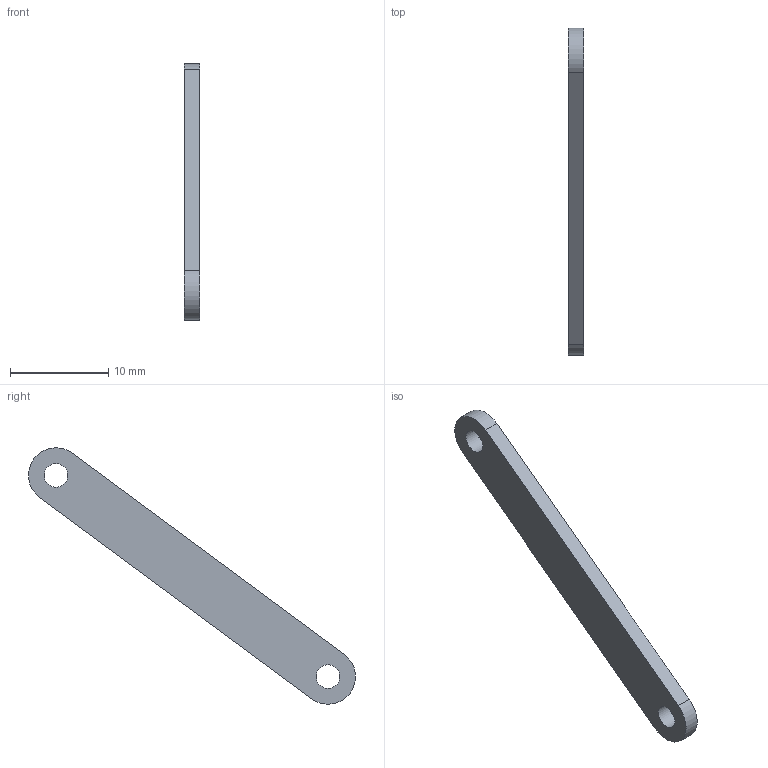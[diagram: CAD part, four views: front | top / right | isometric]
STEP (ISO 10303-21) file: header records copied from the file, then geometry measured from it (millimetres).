
FILE_DESCRIPTION(('Open CASCADE Model'),'2;1');
FILE_NAME('Open CASCADE Shape Model','2026-10-30T16:43:28',('Author'),( 'Open CASCADE'),'Open CASCADE STEP processor 8.0','Open CASCADE 8.0' ,'Unknown');
FILE_SCHEMA(('AP242_MANAGED_MODEL_BASED_3D_ENGINEERING_MIM_LF {1 0 10303 442 1 1 4 }' ));
Length unit declared in the file: millimetre
Products named in the file (1): Open CASCADE STEP translator 8.0 6
Bounding box: 1.6 x 33.29 x 26.09 mm (x, y, z)
Volume: 333.7 mm3; surface area: 579.7 mm2
Topology: 1 solids, 1 shells, 8 faces, 18 edges, 12 vertices
Faces by surface type: plane 4, cylinder 4
Full cylindrical faces by diameter (mm): 2.4 x2
Entity records: 486 total; most frequent: CARTESIAN_POINT 89, DIRECTION 76, ORIENTED_EDGE 36, LINE 36, VECTOR 36, PCURVE 36, DEFINITIONAL_REPRESENTATION 36, EDGE_CURVE 18
